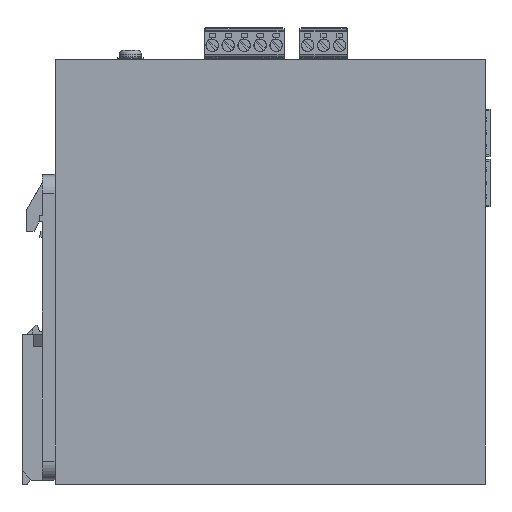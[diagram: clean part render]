
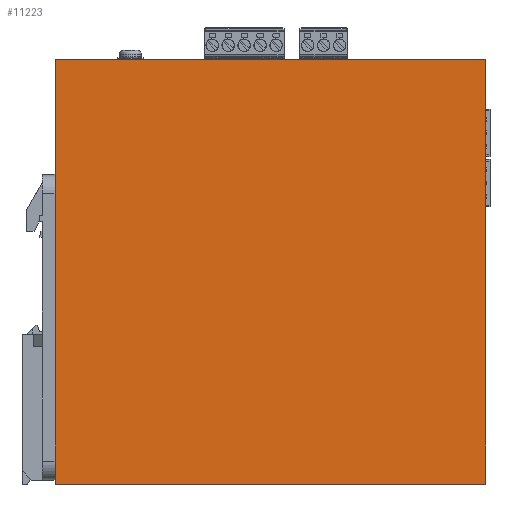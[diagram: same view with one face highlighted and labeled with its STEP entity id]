
A CAD part, left-side view. The second image highlights one B-rep face of the part: STEP entity #11223.
In plain terms, the highlighted planar face has unit normal (-1, 0, 0).
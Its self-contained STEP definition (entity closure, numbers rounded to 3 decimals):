
#342=CARTESIAN_POINT('',(0.,-0.,135.));
#343=VERTEX_POINT('',#342);
#344=CARTESIAN_POINT('',(0.,137.,135.));
#345=VERTEX_POINT('',#344);
#346=CARTESIAN_POINT('',(0.,-0.,135.));
#347=DIRECTION('',(0.,1.,0.));
#348=VECTOR('',#347,137.);
#349=LINE('',#346,#348);
#350=EDGE_CURVE('',#343,#345,#349,.T.);
#11122=CARTESIAN_POINT('',(0.,137.,0.));
#11123=VERTEX_POINT('',#11122);
#11130=CARTESIAN_POINT('',(0.,137.,135.));
#11131=DIRECTION('',(0.,0.,-1.));
#11132=VECTOR('',#11131,135.);
#11133=LINE('',#11130,#11132);
#11134=EDGE_CURVE('',#345,#11123,#11133,.T.);
#11147=CARTESIAN_POINT('',(0.,0.,0.));
#11148=VERTEX_POINT('',#11147);
#11149=CARTESIAN_POINT('',(0.,-0.,135.));
#11150=DIRECTION('',(0.,0.,-1.));
#11151=VECTOR('',#11150,135.);
#11152=LINE('',#11149,#11151);
#11153=EDGE_CURVE('',#343,#11148,#11152,.T.);
#11207=CARTESIAN_POINT('',(0.,-0.002,135.));
#11208=DIRECTION('',(1.,-0.,0.));
#11209=DIRECTION('',(-0.,-1.,-0.));
#11210=AXIS2_PLACEMENT_3D('',#11207,#11208,#11209);
#11211=PLANE('',#11210);
#11212=ORIENTED_EDGE('',*,*,#11134,.T.);
#11213=CARTESIAN_POINT('',(0.,0.,0.));
#11214=DIRECTION('',(0.,1.,0.));
#11215=VECTOR('',#11214,137.);
#11216=LINE('',#11213,#11215);
#11217=EDGE_CURVE('',#11148,#11123,#11216,.T.);
#11218=ORIENTED_EDGE('',*,*,#11217,.F.);
#11219=ORIENTED_EDGE('',*,*,#11153,.F.);
#11220=ORIENTED_EDGE('',*,*,#350,.T.);
#11221=EDGE_LOOP('',(#11212,#11218,#11219,#11220));
#11222=FACE_BOUND('',#11221,.T.);
#11223=ADVANCED_FACE('',(#11222),#11211,.F.);
